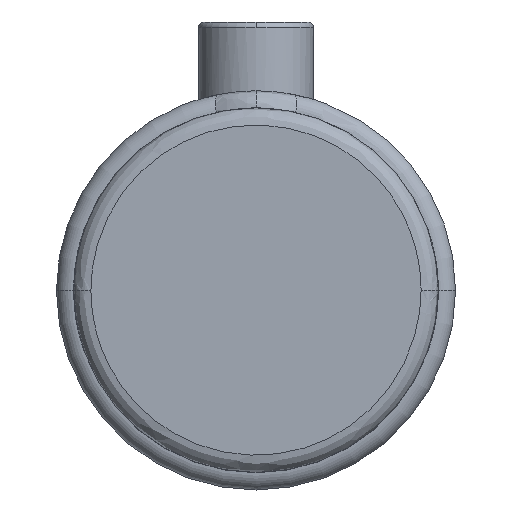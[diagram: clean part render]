
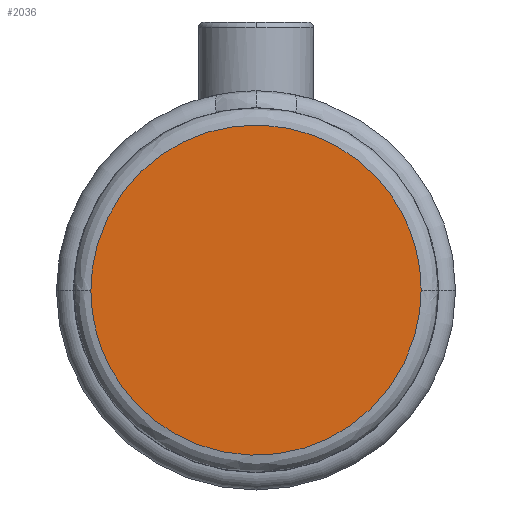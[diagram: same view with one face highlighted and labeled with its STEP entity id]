
A CAD part, top view. The second image highlights one B-rep face of the part: STEP entity #2036.
In plain terms, the highlighted planar face has unit normal (0, 0, 1).
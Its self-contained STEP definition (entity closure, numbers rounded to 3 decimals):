
#209 = CARTESIAN_POINT ( 'NONE',  ( -28.75, 0., 38. ) ) ;
#1499 = CARTESIAN_POINT ( 'NONE',  ( -28.75, 0., 38. ) ) ;
#1650 =( BOUNDED_CURVE ( )  B_SPLINE_CURVE ( 3, ( #5222, #2358, #4506, #209 ),
 .UNSPECIFIED., .F., .T. ) 
 B_SPLINE_CURVE_WITH_KNOTS ( ( 4, 4 ),
 ( 0.25, 0.75 ),
 .UNSPECIFIED. ) 
 CURVE ( )  GEOMETRIC_REPRESENTATION_ITEM ( )  RATIONAL_B_SPLINE_CURVE ( ( 1., 0.333, 0.333, 1. ) ) 
 REPRESENTATION_ITEM ( '' )  );
#2036 = ADVANCED_FACE ( 'NONE', ( #8072 ), #8882, .T. ) ;
#2358 = CARTESIAN_POINT ( 'NONE',  ( 28.75, -57.5, 38. ) ) ;
#2373 = ORIENTED_EDGE ( 'NONE', *, *, #5482, .F. ) ;
#2405 = DIRECTION ( 'NONE',  ( 0., -1., 0. ) ) ;
#2939 = CARTESIAN_POINT ( 'NONE',  ( 28.75, 0., 38. ) ) ;
#3048 = VERTEX_POINT ( 'NONE', #3681 ) ;
#3348 = AXIS2_PLACEMENT_3D ( 'NONE', #5266, #6696, #2405 ) ;
#3535 = ORIENTED_EDGE ( 'NONE', *, *, #8491, .F. ) ;
#3577 = EDGE_LOOP ( 'NONE', ( #2373, #3535 ) ) ;
#3681 = CARTESIAN_POINT ( 'NONE',  ( -28.75, 0., 38. ) ) ;
#4506 = CARTESIAN_POINT ( 'NONE',  ( -28.75, -57.5, 38. ) ) ;
#4610 = VERTEX_POINT ( 'NONE', #8877 ) ;
#5222 = CARTESIAN_POINT ( 'NONE',  ( 28.75, 0., 38. ) ) ;
#5266 = CARTESIAN_POINT ( 'NONE',  ( 0., 15.875, 38. ) ) ;
#5482 = EDGE_CURVE ( 'NONE', #4610, #3048, #1650, .T. ) ;
#5805 = CARTESIAN_POINT ( 'NONE',  ( -28.75, 57.5, 38. ) ) ;
#6696 = DIRECTION ( 'NONE',  ( 0., 0., 1. ) ) ;
#7248 = CARTESIAN_POINT ( 'NONE',  ( 28.75, 57.5, 38. ) ) ;
#8072 = FACE_OUTER_BOUND ( 'NONE', #3577, .T. ) ;
#8491 = EDGE_CURVE ( 'NONE', #3048, #4610, #9237, .T. ) ;
#8877 = CARTESIAN_POINT ( 'NONE',  ( 28.75, 0., 38. ) ) ;
#8882 = PLANE ( 'NONE',  #3348 ) ;
#9237 =( BOUNDED_CURVE ( )  B_SPLINE_CURVE ( 3, ( #1499, #5805, #7248, #2939 ),
 .UNSPECIFIED., .F., .F. ) 
 B_SPLINE_CURVE_WITH_KNOTS ( ( 4, 4 ),
 ( 0.75, 1.25 ),
 .UNSPECIFIED. ) 
 CURVE ( )  GEOMETRIC_REPRESENTATION_ITEM ( )  RATIONAL_B_SPLINE_CURVE ( ( 1., 0.333, 0.333, 1. ) ) 
 REPRESENTATION_ITEM ( '' )  );
